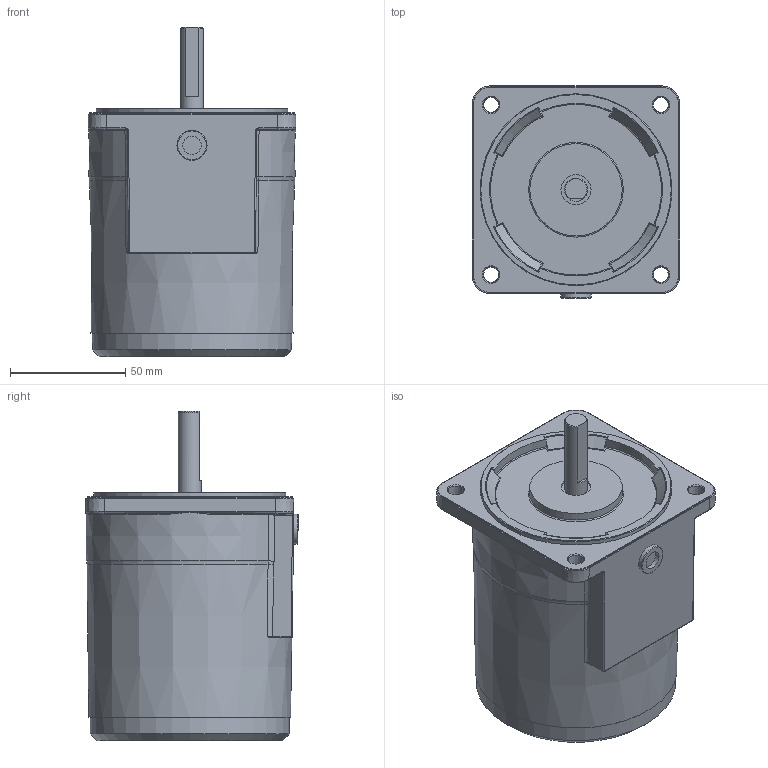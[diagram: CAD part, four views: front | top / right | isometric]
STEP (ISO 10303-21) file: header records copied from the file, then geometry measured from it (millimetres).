
FILE_DESCRIPTION (( 'STEP AP214' ), '1' );
FILE_NAME ('9IDD¤±-40-A.STEP', '2025-01-13T02:53:30', ( '' ), ( '' ), 'SwSTEP 2.0', 'SolidWorks 2024', '' );
FILE_SCHEMA (( 'AUTOMOTIVE_DESIGN' ));
Length unit declared in the file: millimetre
Products named in the file (1): 9IDDㅁ-40-A
Bounding box: 90 x 91.94 x 142.5 mm (x, y, z)
Volume: 662220.6 mm3; surface area: 49596.1 mm2
Topology: 1 solids, 1 shells, 229 faces, 519 edges, 315 vertices
Faces by surface type: plane 67, torus 49, cone 46, cylinder 45, bspline 20, sphere 2
Full cylindrical faces by diameter (mm): 6.5 x4, 8 x1, 10 x1, 13 x2, 40 x1, 83.1 x1
Entity records: 6580 total; most frequent: CARTESIAN_POINT 1889, DIRECTION 969, ORIENTED_EDGE 874, EDGE_CURVE 437, AXIS2_PLACEMENT_3D 419, EDGE_LOOP 330, VERTEX_POINT 303, FACE_OUTER_BOUND 263
